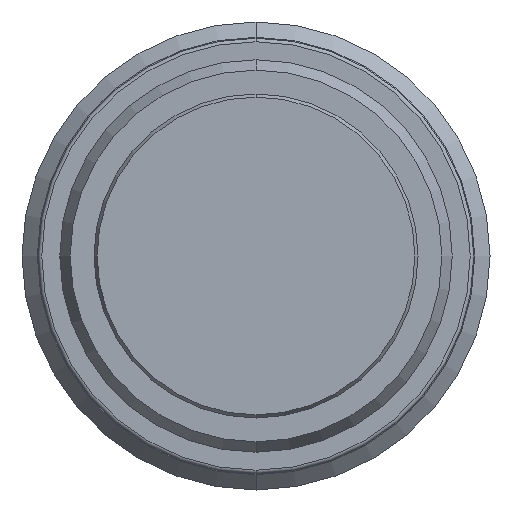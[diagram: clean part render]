
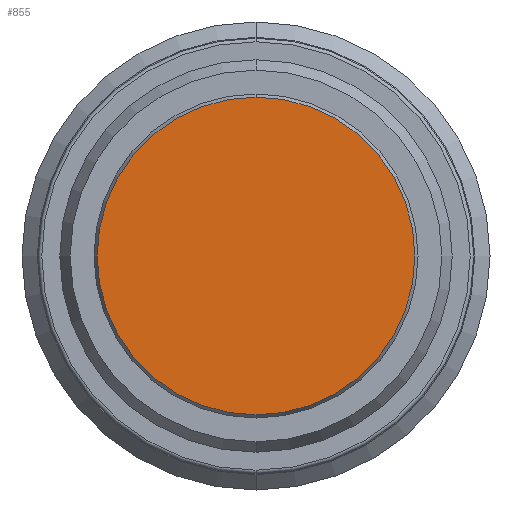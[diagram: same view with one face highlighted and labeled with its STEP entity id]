
A CAD part, front view. The second image highlights one B-rep face of the part: STEP entity #855.
In plain terms, the highlighted planar face has unit normal (0, -1, 0).
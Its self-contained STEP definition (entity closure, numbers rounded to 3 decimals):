
#500=PLANE('',#2426);
#855=ADVANCED_FACE('',(#965),#500,.T.);
#965=FACE_OUTER_BOUND('',#1084,.T.);
#1084=EDGE_LOOP('',(#1503,#1504));
#1503=ORIENTED_EDGE('',*,*,#1892,.F.);
#1504=ORIENTED_EDGE('',*,*,#1999,.F.);
#1698=VERTEX_POINT('',#3307);
#1699=VERTEX_POINT('',#3308);
#1892=EDGE_CURVE('',#1698,#1699,#2134,.T.);
#1999=EDGE_CURVE('',#1699,#1698,#2185,.T.);
#2134=CIRCLE('',#2330,8.827);
#2185=CIRCLE('',#2424,8.827);
#2330=AXIS2_PLACEMENT_3D('',#3306,#2735,#2736);
#2424=AXIS2_PLACEMENT_3D('',#3580,#2959,#2960);
#2426=AXIS2_PLACEMENT_3D('',#3582,#2963,#2964);
#2735=DIRECTION('',(0.,1.,0.));
#2736=DIRECTION('',(0.,0.,1.));
#2959=DIRECTION('',(0.,1.,0.));
#2960=DIRECTION('',(0.,0.,1.));
#2963=DIRECTION('',(0.,-1.,0.));
#2964=DIRECTION('',(0.,0.,1.));
#3306=CARTESIAN_POINT('',(0.,-2.5,0.));
#3307=CARTESIAN_POINT('',(0.,-2.5,8.827));
#3308=CARTESIAN_POINT('',(0.,-2.5,-8.827));
#3580=CARTESIAN_POINT('',(0.,-2.5,0.));
#3582=CARTESIAN_POINT('',(0.,-2.5,0.));
